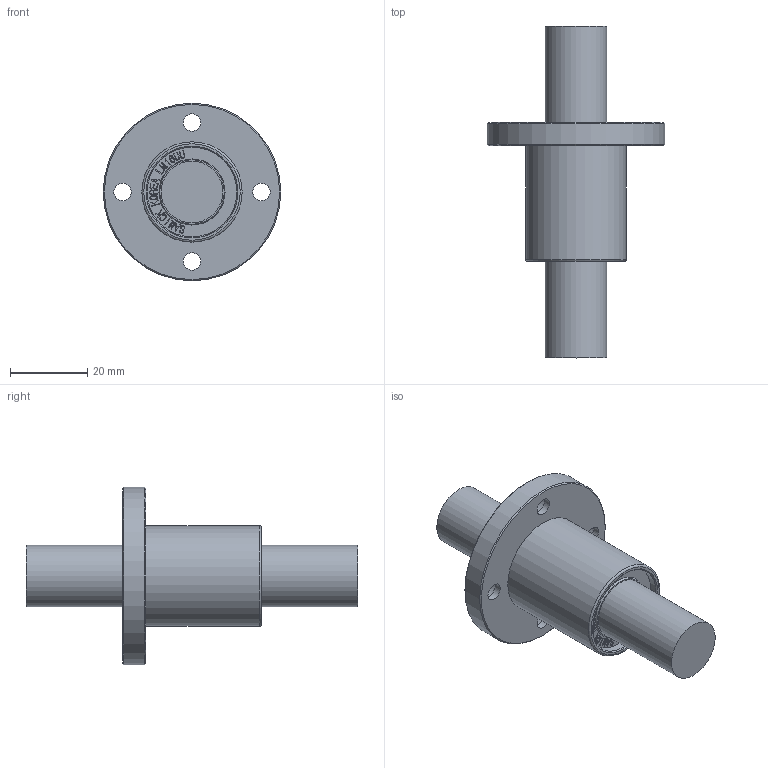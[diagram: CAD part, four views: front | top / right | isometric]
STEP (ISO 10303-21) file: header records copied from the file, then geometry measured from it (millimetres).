
FILE_DESCRIPTION(/* description */ (''),/* implementation_level */ '2;1');
FILE_NAME(/* name */ 'W:\(01) 2024년 홈페이지 CAD파일 최신화\LMEF\IPT\LMEF16UU.stp',/* time_stamp */ '2025-01-25T10:27:57+09:00',/* author */ ('서우현'),/* organization */ (''),/* preprocessor_version */ 'ST-DEVELOPER v17.2',/* originating_system */ 'Autodesk Inventor 2019',/* authorisation */ '');
FILE_SCHEMA (('AUTOMOTIVE_DESIGN { 1 0 10303 214 3 1 1 }'));
Length unit declared in the file: millimetre
Products named in the file (1): LM5
Bounding box: 46 x 86 x 46 mm (x, y, z)
Volume: 33971.4 mm3; surface area: 10104 mm2
Topology: 1 solids, 1 shells, 837 faces, 2363 edges, 1584 vertices
Faces by surface type: bspline 588, plane 226, cylinder 15, cone 6, torus 2
Full cylindrical faces by diameter (mm): 4.5 x4, 8 x4, 16 x2, 23.2 x2, 26 x2, 46 x1
Entity records: 28900 total; most frequent: CARTESIAN_POINT 10741, ORIENTED_EDGE 4726, EDGE_CURVE 2363, DIRECTION 1761, VERTEX_POINT 1584, B_SPLINE_CURVE_WITH_KNOTS 1176, LINE 1113, VECTOR 1113
